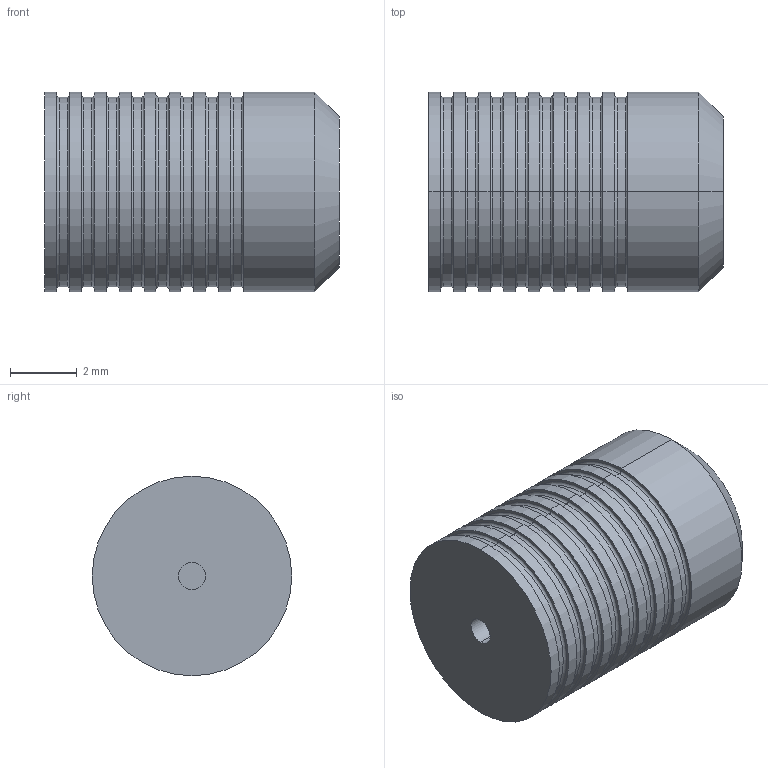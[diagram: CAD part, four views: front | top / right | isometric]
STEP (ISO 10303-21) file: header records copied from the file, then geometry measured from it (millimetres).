
FILE_DESCRIPTION (( 'STEP AP214' ), '1' );
FILE_NAME ('PLGM0601_ _ 0A.STEP', '2020-02-19T18:04:20', ( 'tlc' ), ( 'Microsoft' ), 'SwSTEP 2.0', 'SolidWorks 2019', '' );
FILE_SCHEMA (( 'AUTOMOTIVE_DESIGN' ));
Length unit declared in the file: inch
Products named in the file (1): PLGM0601_ _ 0A
Bounding box: 8.84 x 5.99 x 5.99 mm (x, y, z)
Volume: 232 mm3; surface area: 264.7 mm2
Topology: 1 solids, 1 shells, 89 faces, 176 edges, 106 vertices
Faces by surface type: cylinder 36, torus 32, plane 19, cone 2
Entity records: 2376 total; most frequent: DIRECTION 494, CARTESIAN_POINT 372, ORIENTED_EDGE 352, AXIS2_PLACEMENT_3D 228, EDGE_CURVE 176, CIRCLE 138, EDGE_LOOP 106, VERTEX_POINT 106
